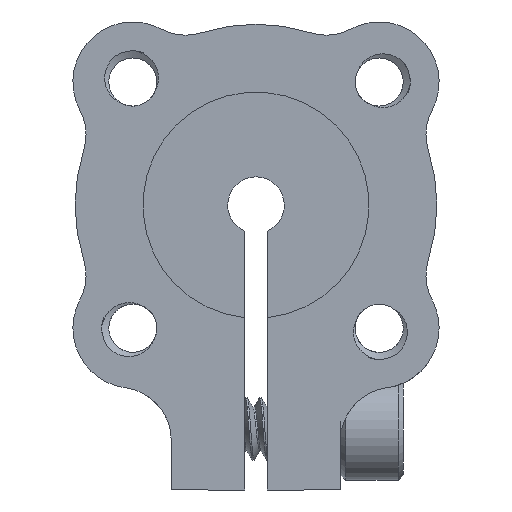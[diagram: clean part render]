
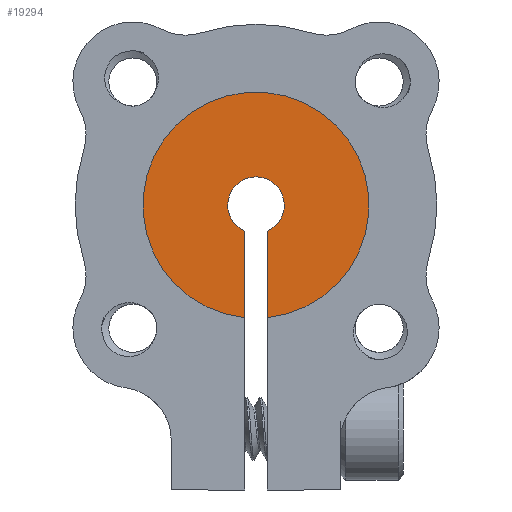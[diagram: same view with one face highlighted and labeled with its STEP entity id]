
A CAD part, front view. The second image highlights one B-rep face of the part: STEP entity #19294.
In plain terms, the highlighted planar face has unit normal (0, -1, 0).
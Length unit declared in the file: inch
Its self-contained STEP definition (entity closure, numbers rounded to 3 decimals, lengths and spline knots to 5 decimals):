
#597 = ORIENTED_EDGE ( 'NONE', *, *, #6745, .T. ) ;
#811 = CARTESIAN_POINT ( 'NONE',  ( 0., 0., 0. ) ) ;
#878 = CARTESIAN_POINT ( 'NONE',  ( 0.025, 0., -0.24875 ) ) ;
#929 = CIRCLE ( 'NONE', #7348, 0.25 ) ;
#1178 = ORIENTED_EDGE ( 'NONE', *, *, #4642, .F. ) ;
#1607 = PLANE ( 'NONE',  #16607 ) ;
#1911 = LINE ( 'NONE', #14876, #8462 ) ;
#3173 = DIRECTION ( 'NONE',  ( 0., 0., -1. ) ) ;
#3204 = CARTESIAN_POINT ( 'NONE',  ( 0., 0., 0. ) ) ;
#3798 = DIRECTION ( 'NONE',  ( 0., -1., 0. ) ) ;
#4471 = CARTESIAN_POINT ( 'NONE',  ( 0., 0., 0. ) ) ;
#4642 = EDGE_CURVE ( 'NONE', #13446, #18055, #8925, .T. ) ;
#4725 = VERTEX_POINT ( 'NONE', #878 ) ;
#4966 = DIRECTION ( 'NONE',  ( 0., 0., 1. ) ) ;
#5107 = ORIENTED_EDGE ( 'NONE', *, *, #6253, .F. ) ;
#5402 = CARTESIAN_POINT ( 'NONE',  ( -0.025, 0., -0.24875 ) ) ;
#5423 = EDGE_CURVE ( 'NONE', #10600, #18055, #1911, .T. ) ;
#6253 = EDGE_CURVE ( 'NONE', #10600, #4725, #929, .T. ) ;
#6358 = CARTESIAN_POINT ( 'NONE',  ( 0.025, 0., -0.39922 ) ) ;
#6745 = EDGE_CURVE ( 'NONE', #13446, #4725, #16824, .T. ) ;
#7348 = AXIS2_PLACEMENT_3D ( 'NONE', #4471, #9177, #4966 ) ;
#8278 = DIRECTION ( 'NONE',  ( 0., 0., -1. ) ) ;
#8462 = VECTOR ( 'NONE', #13180, 39.37008 ) ;
#8925 = CIRCLE ( 'NONE', #9591, 0.0625 ) ;
#9177 = DIRECTION ( 'NONE',  ( 0., 1., 0. ) ) ;
#9591 = AXIS2_PLACEMENT_3D ( 'NONE', #811, #3798, #8278 ) ;
#10246 = CARTESIAN_POINT ( 'NONE',  ( -0.025, 0., -0.05728 ) ) ;
#10600 = VERTEX_POINT ( 'NONE', #5402 ) ;
#11492 = CARTESIAN_POINT ( 'NONE',  ( 0.025, 0., -0.05728 ) ) ;
#12068 = DIRECTION ( 'NONE',  ( 0., 1., 0. ) ) ;
#12766 = ORIENTED_EDGE ( 'NONE', *, *, #5423, .T. ) ;
#13180 = DIRECTION ( 'NONE',  ( 0., 0., 1. ) ) ;
#13230 = EDGE_LOOP ( 'NONE', ( #12766, #1178, #597, #5107 ) ) ;
#13281 = FACE_OUTER_BOUND ( 'NONE', #13230, .T. ) ;
#13446 = VERTEX_POINT ( 'NONE', #11492 ) ;
#14876 = CARTESIAN_POINT ( 'NONE',  ( -0.025, 0., -0.39922 ) ) ;
#15020 = DIRECTION ( 'NONE',  ( 0., 0., 1. ) ) ;
#16607 = AXIS2_PLACEMENT_3D ( 'NONE', #3204, #12068, #15020 ) ;
#16824 = LINE ( 'NONE', #6358, #17989 ) ;
#17989 = VECTOR ( 'NONE', #3173, 39.37008 ) ;
#18055 = VERTEX_POINT ( 'NONE', #10246 ) ;
#19294 = ADVANCED_FACE ( 'NONE', ( #13281 ), #1607, .F. ) ;
